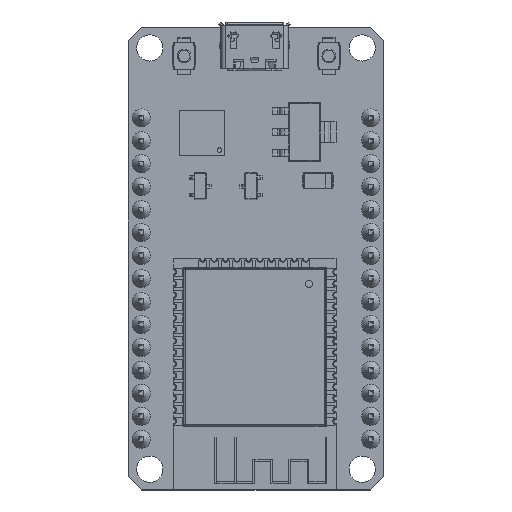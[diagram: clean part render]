
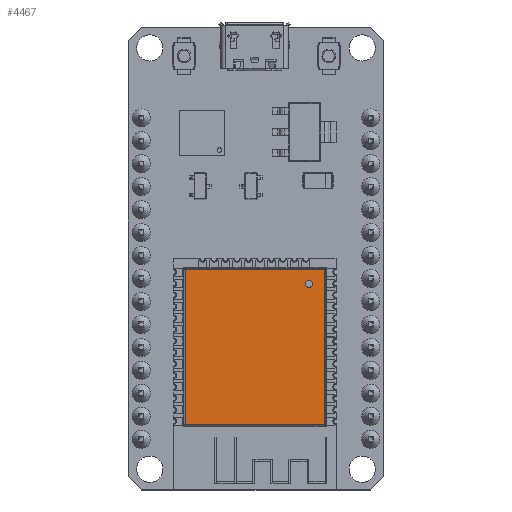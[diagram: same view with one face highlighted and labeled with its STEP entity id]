
A CAD part, top view. The second image highlights one B-rep face of the part: STEP entity #4467.
In plain terms, the highlighted planar face has unit normal (0, 0, 1).
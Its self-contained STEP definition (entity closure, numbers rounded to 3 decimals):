
#4224 = VERTEX_POINT('',#4225);
#4225 = CARTESIAN_POINT('',(-7.7,-8.6,3.1));
#4235 = CYLINDRICAL_SURFACE('',#4236,0.1);
#4236 = AXIS2_PLACEMENT_3D('',#4237,#4238,#4239);
#4237 = CARTESIAN_POINT('',(-7.7,-8.7,3.));
#4238 = DIRECTION('',(0.,1.,0.));
#4239 = DIRECTION('',(-1.,0.,0.));
#4259 = EDGE_CURVE('',#4224,#4260,#4262,.T.);
#4260 = VERTEX_POINT('',#4261);
#4261 = CARTESIAN_POINT('',(-7.7,8.6,3.1));
#4262 = SURFACE_CURVE('',#4263,(#4267,#4274),.PCURVE_S1.);
#4263 = LINE('',#4264,#4265);
#4264 = CARTESIAN_POINT('',(-7.7,-8.7,3.1));
#4265 = VECTOR('',#4266,1.);
#4266 = DIRECTION('',(0.,1.,0.));
#4267 = PCURVE('',#4235,#4268);
#4268 = DEFINITIONAL_REPRESENTATION('',(#4269),#4273);
#4269 = LINE('',#4270,#4271);
#4270 = CARTESIAN_POINT('',(1.571,0.));
#4271 = VECTOR('',#4272,1.);
#4272 = DIRECTION('',(0.,1.));
#4273 = ( GEOMETRIC_REPRESENTATION_CONTEXT(2) 
PARAMETRIC_REPRESENTATION_CONTEXT() REPRESENTATION_CONTEXT('2D SPACE',''
  ) );
#4274 = PCURVE('',#4275,#4280);
#4275 = PLANE('',#4276);
#4276 = AXIS2_PLACEMENT_3D('',#4277,#4278,#4279);
#4277 = CARTESIAN_POINT('',(-7.8,-8.7,3.1));
#4278 = DIRECTION('',(0.,0.,1.));
#4279 = DIRECTION('',(1.,0.,-0.));
#4280 = DEFINITIONAL_REPRESENTATION('',(#4281),#4285);
#4281 = LINE('',#4282,#4283);
#4282 = CARTESIAN_POINT('',(0.1,0.));
#4283 = VECTOR('',#4284,1.);
#4284 = DIRECTION('',(0.,1.));
#4285 = ( GEOMETRIC_REPRESENTATION_CONTEXT(2) 
PARAMETRIC_REPRESENTATION_CONTEXT() REPRESENTATION_CONTEXT('2D SPACE',''
  ) );
#4455 = CYLINDRICAL_SURFACE('',#4456,0.1);
#4456 = AXIS2_PLACEMENT_3D('',#4457,#4458,#4459);
#4457 = CARTESIAN_POINT('',(-7.8,-8.6,3.));
#4458 = DIRECTION('',(1.,0.,0.));
#4459 = DIRECTION('',(0.,-1.,0.));
#4467 = ADVANCED_FACE('',(#4468,#4548),#4275,.T.);
#4468 = FACE_BOUND('',#4469,.T.);
#4469 = EDGE_LOOP('',(#4470,#4471,#4494,#4522));
#4470 = ORIENTED_EDGE('',*,*,#4259,.F.);
#4471 = ORIENTED_EDGE('',*,*,#4472,.T.);
#4472 = EDGE_CURVE('',#4224,#4473,#4475,.T.);
#4473 = VERTEX_POINT('',#4474);
#4474 = CARTESIAN_POINT('',(7.7,-8.6,3.1));
#4475 = SURFACE_CURVE('',#4476,(#4480,#4487),.PCURVE_S1.);
#4476 = LINE('',#4477,#4478);
#4477 = CARTESIAN_POINT('',(-7.8,-8.6,3.1));
#4478 = VECTOR('',#4479,1.);
#4479 = DIRECTION('',(1.,0.,0.));
#4480 = PCURVE('',#4275,#4481);
#4481 = DEFINITIONAL_REPRESENTATION('',(#4482),#4486);
#4482 = LINE('',#4483,#4484);
#4483 = CARTESIAN_POINT('',(0.,0.1));
#4484 = VECTOR('',#4485,1.);
#4485 = DIRECTION('',(1.,0.));
#4486 = ( GEOMETRIC_REPRESENTATION_CONTEXT(2) 
PARAMETRIC_REPRESENTATION_CONTEXT() REPRESENTATION_CONTEXT('2D SPACE',''
  ) );
#4487 = PCURVE('',#4455,#4488);
#4488 = DEFINITIONAL_REPRESENTATION('',(#4489),#4493);
#4489 = LINE('',#4490,#4491);
#4490 = CARTESIAN_POINT('',(4.712,0.));
#4491 = VECTOR('',#4492,1.);
#4492 = DIRECTION('',(0.,1.));
#4493 = ( GEOMETRIC_REPRESENTATION_CONTEXT(2) 
PARAMETRIC_REPRESENTATION_CONTEXT() REPRESENTATION_CONTEXT('2D SPACE',''
  ) );
#4494 = ORIENTED_EDGE('',*,*,#4495,.T.);
#4495 = EDGE_CURVE('',#4473,#4496,#4498,.T.);
#4496 = VERTEX_POINT('',#4497);
#4497 = CARTESIAN_POINT('',(7.7,8.6,3.1));
#4498 = SURFACE_CURVE('',#4499,(#4503,#4510),.PCURVE_S1.);
#4499 = LINE('',#4500,#4501);
#4500 = CARTESIAN_POINT('',(7.7,-8.7,3.1));
#4501 = VECTOR('',#4502,1.);
#4502 = DIRECTION('',(0.,1.,0.));
#4503 = PCURVE('',#4275,#4504);
#4504 = DEFINITIONAL_REPRESENTATION('',(#4505),#4509);
#4505 = LINE('',#4506,#4507);
#4506 = CARTESIAN_POINT('',(15.5,0.));
#4507 = VECTOR('',#4508,1.);
#4508 = DIRECTION('',(0.,1.));
#4509 = ( GEOMETRIC_REPRESENTATION_CONTEXT(2) 
PARAMETRIC_REPRESENTATION_CONTEXT() REPRESENTATION_CONTEXT('2D SPACE',''
  ) );
#4510 = PCURVE('',#4511,#4516);
#4511 = CYLINDRICAL_SURFACE('',#4512,0.1);
#4512 = AXIS2_PLACEMENT_3D('',#4513,#4514,#4515);
#4513 = CARTESIAN_POINT('',(7.7,-8.7,3.));
#4514 = DIRECTION('',(0.,1.,0.));
#4515 = DIRECTION('',(0.,-0.,1.));
#4516 = DEFINITIONAL_REPRESENTATION('',(#4517),#4521);
#4517 = LINE('',#4518,#4519);
#4518 = CARTESIAN_POINT('',(0.,0.));
#4519 = VECTOR('',#4520,1.);
#4520 = DIRECTION('',(0.,1.));
#4521 = ( GEOMETRIC_REPRESENTATION_CONTEXT(2) 
PARAMETRIC_REPRESENTATION_CONTEXT() REPRESENTATION_CONTEXT('2D SPACE',''
  ) );
#4522 = ORIENTED_EDGE('',*,*,#4523,.F.);
#4523 = EDGE_CURVE('',#4260,#4496,#4524,.T.);
#4524 = SURFACE_CURVE('',#4525,(#4529,#4536),.PCURVE_S1.);
#4525 = LINE('',#4526,#4527);
#4526 = CARTESIAN_POINT('',(-7.8,8.6,3.1));
#4527 = VECTOR('',#4528,1.);
#4528 = DIRECTION('',(1.,0.,0.));
#4529 = PCURVE('',#4275,#4530);
#4530 = DEFINITIONAL_REPRESENTATION('',(#4531),#4535);
#4531 = LINE('',#4532,#4533);
#4532 = CARTESIAN_POINT('',(0.,17.3));
#4533 = VECTOR('',#4534,1.);
#4534 = DIRECTION('',(1.,0.));
#4535 = ( GEOMETRIC_REPRESENTATION_CONTEXT(2) 
PARAMETRIC_REPRESENTATION_CONTEXT() REPRESENTATION_CONTEXT('2D SPACE',''
  ) );
#4536 = PCURVE('',#4537,#4542);
#4537 = CYLINDRICAL_SURFACE('',#4538,0.1);
#4538 = AXIS2_PLACEMENT_3D('',#4539,#4540,#4541);
#4539 = CARTESIAN_POINT('',(-7.8,8.6,3.));
#4540 = DIRECTION('',(1.,0.,0.));
#4541 = DIRECTION('',(0.,0.,1.));
#4542 = DEFINITIONAL_REPRESENTATION('',(#4543),#4547);
#4543 = LINE('',#4544,#4545);
#4544 = CARTESIAN_POINT('',(6.283,0.));
#4545 = VECTOR('',#4546,1.);
#4546 = DIRECTION('',(0.,1.));
#4547 = ( GEOMETRIC_REPRESENTATION_CONTEXT(2) 
PARAMETRIC_REPRESENTATION_CONTEXT() REPRESENTATION_CONTEXT('2D SPACE',''
  ) );
#4548 = FACE_BOUND('',#4549,.T.);
#4549 = EDGE_LOOP('',(#4550));
#4550 = ORIENTED_EDGE('',*,*,#4551,.F.);
#4551 = EDGE_CURVE('',#4552,#4552,#4554,.T.);
#4552 = VERTEX_POINT('',#4553);
#4553 = CARTESIAN_POINT('',(-5.6,-7.,3.1));
#4554 = SURFACE_CURVE('',#4555,(#4560,#4567),.PCURVE_S1.);
#4555 = CIRCLE('',#4556,0.4);
#4556 = AXIS2_PLACEMENT_3D('',#4557,#4558,#4559);
#4557 = CARTESIAN_POINT('',(-6.,-7.,3.1));
#4558 = DIRECTION('',(0.,0.,1.));
#4559 = DIRECTION('',(1.,0.,-0.));
#4560 = PCURVE('',#4275,#4561);
#4561 = DEFINITIONAL_REPRESENTATION('',(#4562),#4566);
#4562 = CIRCLE('',#4563,0.4);
#4563 = AXIS2_PLACEMENT_2D('',#4564,#4565);
#4564 = CARTESIAN_POINT('',(1.8,1.7));
#4565 = DIRECTION('',(1.,0.));
#4566 = ( GEOMETRIC_REPRESENTATION_CONTEXT(2) 
PARAMETRIC_REPRESENTATION_CONTEXT() REPRESENTATION_CONTEXT('2D SPACE',''
  ) );
#4567 = PCURVE('',#4568,#4573);
#4568 = CYLINDRICAL_SURFACE('',#4569,0.4);
#4569 = AXIS2_PLACEMENT_3D('',#4570,#4571,#4572);
#4570 = CARTESIAN_POINT('',(-6.,-7.,2.6));
#4571 = DIRECTION('',(0.,0.,1.));
#4572 = DIRECTION('',(1.,0.,-0.));
#4573 = DEFINITIONAL_REPRESENTATION('',(#4574),#4578);
#4574 = LINE('',#4575,#4576);
#4575 = CARTESIAN_POINT('',(0.,0.5));
#4576 = VECTOR('',#4577,1.);
#4577 = DIRECTION('',(1.,0.));
#4578 = ( GEOMETRIC_REPRESENTATION_CONTEXT(2) 
PARAMETRIC_REPRESENTATION_CONTEXT() REPRESENTATION_CONTEXT('2D SPACE',''
  ) );
